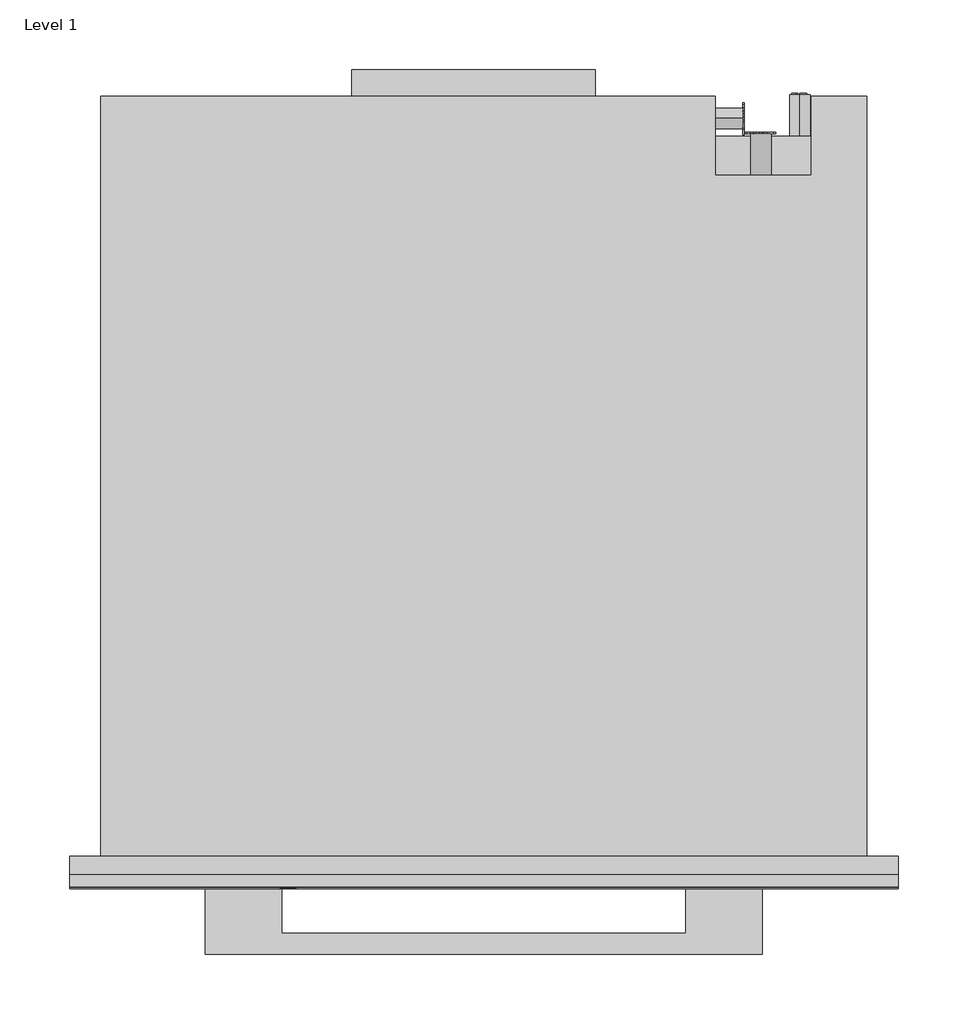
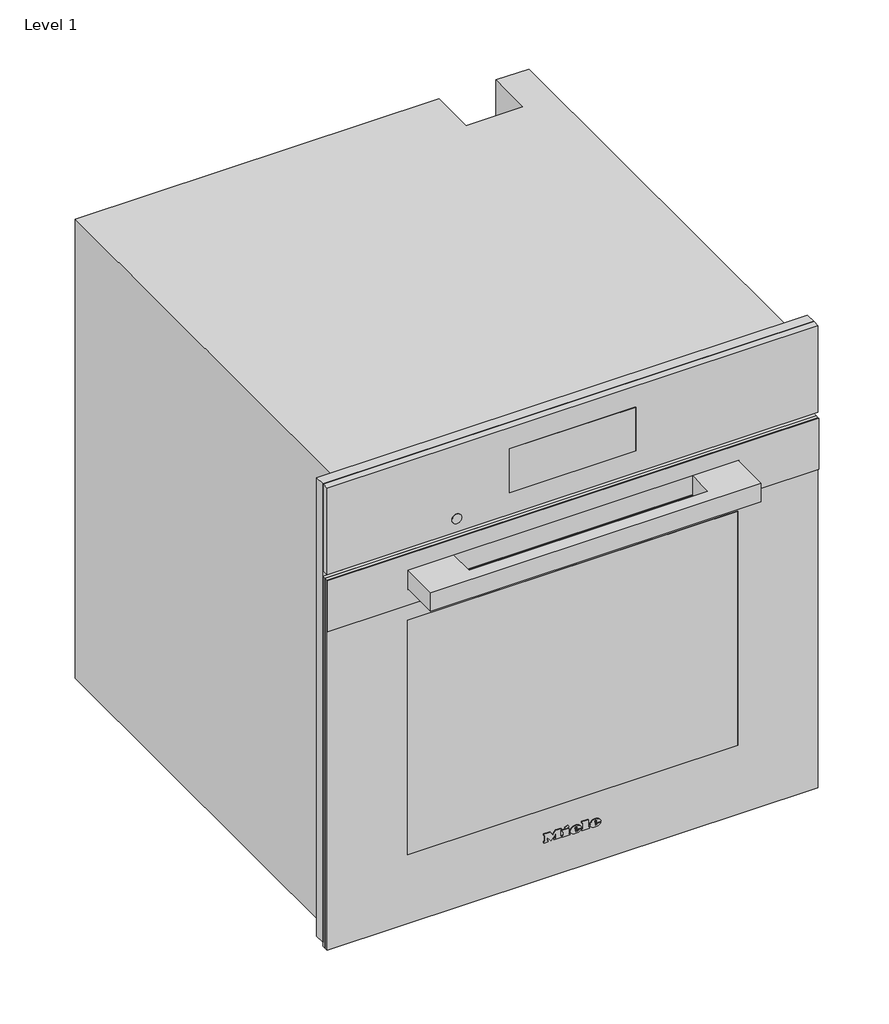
# One storey: 1 proxy.
"""IFC4 building model written with IfcOpenShell, lengths in millimetres."""

from ifc_helpers import new_model, si_unit, origin, place, context, project, spatial, transform, mapped, element, save
from components import specialty_equipment_5517ea6e

model = new_model("IFC4")

# Units and contexts
model_context = context("Model", 3, world=origin())
ifc_project = project(units=[si_unit("LENGTHUNIT", "METRE", prefix="MILLI")], contexts=[model_context])

# Site, building, storey
site = spatial("IfcSite", under=ifc_project)
building = spatial("IfcBuilding", under=site)
storey = spatial("IfcBuildingStorey", under=building, Name="Level 1", Elevation=0.0)

# Proxy
placement = place(None, origin())
specialty_equipment_shape = specialty_equipment_5517ea6e(model_context)
element("IfcBuildingElementProxy", 1, Name="11877020_USA_DGC7865_EDST-CLST : 23786543_USA_11877020_DGC7865_EDST-CLST", ObjectType="11877020_USA_DGC7865_EDST-CLST : 23786543_USA_11877020_DGC7865_EDST-CLST", at=placement, inside=storey, context=model_context, shape_type="MappedRepresentation", body=[
    mapped(specialty_equipment_shape, transform((0.0, 0.0, 0.0), x_axis=(1.0, 0.0, 0.0), y_axis=(0.0, 1.0, 0.0), z_axis=(0.0, 0.0, 1.0))),
])

save(model, "model.ifc")
